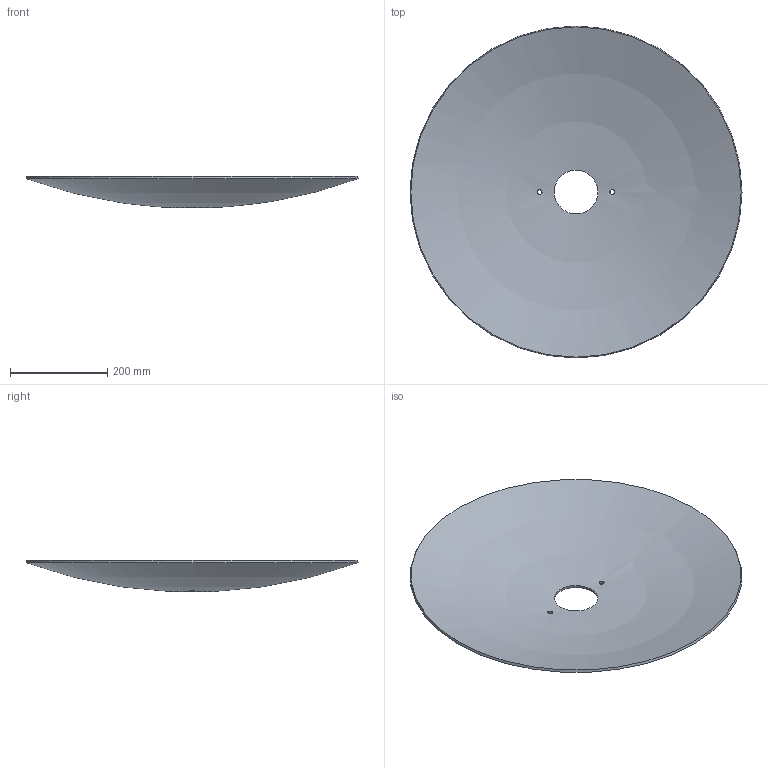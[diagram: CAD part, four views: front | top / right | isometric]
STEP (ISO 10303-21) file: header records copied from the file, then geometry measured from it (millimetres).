
FILE_DESCRIPTION(('Open CASCADE Model'),'2;1');
FILE_NAME('Open CASCADE Shape Model','2026-09-07T11:14:05',('Author'),( 'Open CASCADE'),'Open CASCADE STEP processor 7.9','Open CASCADE 7.9' ,'Unknown');
FILE_SCHEMA(('AUTOMOTIVE_DESIGN { 1 0 10303 214 1 1 1 1 }'));
Length unit declared in the file: millimetre
Products named in the file (1): Open CASCADE STEP translator 7.9 3
Bounding box: 684.04 x 684.04 x 63.99 mm (x, y, z)
Volume: 1852542.5 mm3; surface area: 753468.4 mm2
Topology: 1 solids, 1 shells, 6 faces, 18 edges, 10 vertices
Faces by surface type: cylinder 3, sphere 2, cone 1
Full cylindrical faces by diameter (mm): 10 x2, 90 x1
Entity records: 2148 total; most frequent: CARTESIAN_POINT 1811, DIRECTION 50, ORIENTED_EDGE 36, PCURVE 36, DEFINITIONAL_REPRESENTATION 36, B_SPLINE_CURVE_WITH_KNOTS 24, LINE 24, VECTOR 24
